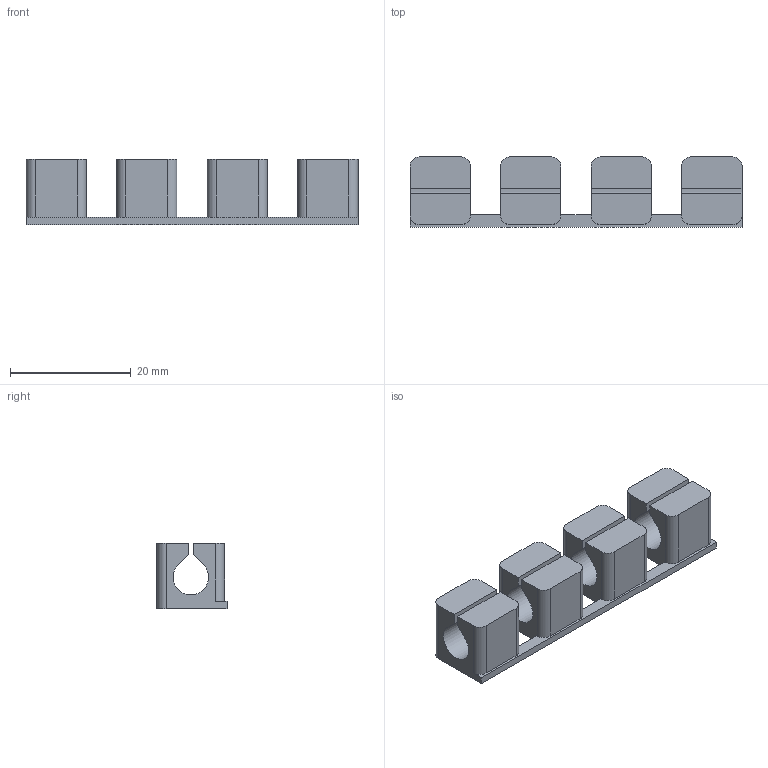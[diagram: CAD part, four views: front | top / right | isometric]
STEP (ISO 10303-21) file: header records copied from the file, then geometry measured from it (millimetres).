
FILE_DESCRIPTION(('Open CASCADE Model'),'2;1');
FILE_NAME('Open CASCADE Shape Model','2026-10-21T17:27:38',('Author'),( 'Open CASCADE'),'Open CASCADE STEP processor 7.9','Open CASCADE 7.9' ,'Unknown');
FILE_SCHEMA(('AUTOMOTIVE_DESIGN { 1 0 10303 214 1 1 1 1 }'));
Length unit declared in the file: millimetre
Products named in the file (1): Open CASCADE STEP translator 7.9 7
Bounding box: 55 x 11.6 x 10.8 mm (x, y, z)
Volume: 3537.2 mm3; surface area: 3349.5 mm2
Topology: 1 solids, 1 shells, 66 faces, 192 edges, 128 vertices
Faces by surface type: plane 46, cylinder 20
Entity records: 4622 total; most frequent: CARTESIAN_POINT 1011, DIRECTION 610, ORIENTED_EDGE 384, PCURVE 384, DEFINITIONAL_REPRESENTATION 384, LINE 376, VECTOR 376, EDGE_CURVE 192
